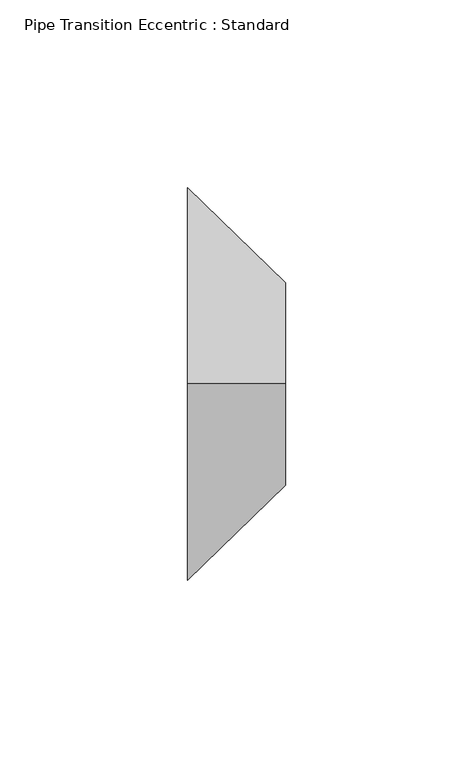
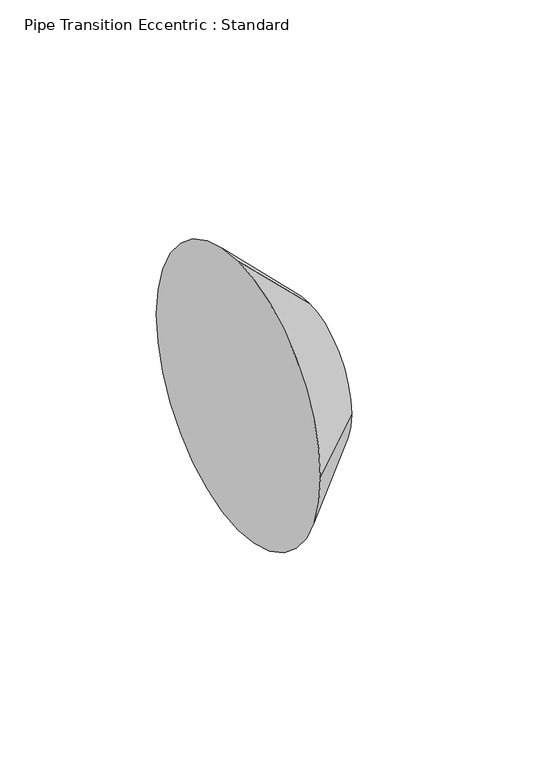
"""IFC4 building model written with IfcOpenShell, lengths in millimetres: pipe fitting geometry, Pipe Transition Eccentric : Standard."""

from ifc_helpers import new_model, si_unit, frame, origin, place, context, project, spatial, polyline, circle_curve, source, transform, mapped, element, save
from ifc_brep_helpers import plane_surface, revolved_surface, advanced_brep


def pipe_transition_eccentric_standard_ae9cfb6a(model_context):
    return source(origin(), model_context, "Body", "AdvancedBrep", [
        advanced_brep(
        [(26.19375, 0.0, 26.9875), (26.19375, -26.9875, 0.0), (26.19375, 0.0, -26.9875), (26.19375, 26.9875, 0.0), (0.0, 0.0, 52.3875), (0.0, 52.3875, 0.0), (0.0, 0.0, -52.3875), (0.0, -52.3875, 0.0)],
        [
            (0, 1, circle_curve(frame((26.19375, 0.0, 0.0), z_axis=(1.0, 0.0, 0.0), x_axis=(0.0, 0.0, 1.0)), 26.9875)),
            (1, 2, circle_curve(frame((26.19375, 0.0, 0.0), z_axis=(1.0, 0.0, 0.0), x_axis=(0.0, -1.0, 0.0)), 26.9875)),
            (2, 3, circle_curve(frame((26.19375, 0.0, 0.0), z_axis=(1.0, 0.0, 0.0), x_axis=(0.0, 0.0, -1.0)), 26.9875)),
            (3, 0, circle_curve(frame((26.19375, 0.0, 0.0), z_axis=(1.0, 0.0, 0.0), x_axis=(0.0, 1.0, 0.0)), 26.9875)),
            (4, 5, circle_curve(frame((0.0, 0.0, 0.0), z_axis=(-1.0, 0.0, 0.0), x_axis=(0.0, 1.0, 0.0)), 52.3875)),
            (5, 6, circle_curve(frame((0.0, 0.0, 0.0), z_axis=(-1.0, 0.0, 0.0), x_axis=(0.0, 0.0, -1.0)), 52.3875)),
            (6, 7, circle_curve(frame((0.0, 0.0, 0.0), z_axis=(-1.0, 0.0, 0.0), x_axis=(0.0, -1.0, 0.0)), 52.3875)),
            (7, 4, circle_curve(frame((0.0, 0.0, 0.0), z_axis=(-1.0, 0.0, 0.0), x_axis=(0.0, 0.0, 1.0)), 52.3875)),
            (7, 1),
            (0, 4),
            (6, 2),
            (5, 3),
        ],
        [
            plane_surface(frame((26.19375, 0.0, 0.0), z_axis=(1.0, 0.0, 0.0), x_axis=(0.0, -1.0, 0.0))),
            plane_surface(frame((0.0, 0.0, 0.0), z_axis=(-1.0, 0.0, 0.0), x_axis=(0.0, -1.0, 0.0))),
            revolved_surface(polyline([(26.19375, 0.0, 26.9875000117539), (0.0, 0.0, 52.3875)]), (54.0246094, 0.0, 0.0), (-1.0, 0.0, 0.0)),
            revolved_surface(polyline([(26.19375, -26.9875000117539, 0.0), (0.0, -52.3875, 0.0)]), (54.0246094, 0.0, 0.0), (-1.0, 0.0, 0.0)),
            revolved_surface(polyline([(26.19375, 0.0, -26.9875000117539), (0.0, 0.0, -52.3875)]), (54.0246094, 0.0, 0.0), (-1.0, 0.0, 0.0)),
            revolved_surface(polyline([(26.19375, 26.9875000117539, 0.0), (0.0, 52.3875, 0.0)]), (54.0246094, 0.0, 0.0), (-1.0, 0.0, 0.0)),
        ],
        [
            (0, [[1, 2, 3, 4]]),
            (1, [[5, 6, 7, 8]]),
            (2, [[-8, 9, -1, 10]]),
            (3, [[-7, 11, -2, -9]]),
            (4, [[-6, 12, -3, -11]]),
            (5, [[-5, -10, -4, -12]]),
        ],
    ),
        advanced_brep(
        [(26.19375, 0.0, 26.9875), (26.19375, -26.9875, 0.0), (26.19375, 0.0, -26.9875), (26.19375, 26.9875, 0.0), (0.0, 0.0, 52.3875), (0.0, 52.3875, 0.0), (0.0, 0.0, -52.3875), (0.0, -52.3875, 0.0)],
        [
            (0, 1, circle_curve(frame((26.19375, 0.0, 0.0), z_axis=(1.0, 0.0, 0.0), x_axis=(0.0, 0.0, 1.0)), 26.9875)),
            (1, 2, circle_curve(frame((26.19375, 0.0, 0.0), z_axis=(1.0, 0.0, 0.0), x_axis=(0.0, -1.0, 0.0)), 26.9875)),
            (2, 3, circle_curve(frame((26.19375, 0.0, 0.0), z_axis=(1.0, 0.0, 0.0), x_axis=(0.0, 0.0, -1.0)), 26.9875)),
            (3, 0, circle_curve(frame((26.19375, 0.0, 0.0), z_axis=(1.0, 0.0, 0.0), x_axis=(0.0, 1.0, 0.0)), 26.9875)),
            (4, 5, circle_curve(frame((0.0, 0.0, 0.0), z_axis=(-1.0, 0.0, 0.0), x_axis=(0.0, 1.0, 0.0)), 52.3875)),
            (5, 6, circle_curve(frame((0.0, 0.0, 0.0), z_axis=(-1.0, 0.0, 0.0), x_axis=(0.0, 0.0, -1.0)), 52.3875)),
            (6, 7, circle_curve(frame((0.0, 0.0, 0.0), z_axis=(-1.0, 0.0, 0.0), x_axis=(0.0, -1.0, 0.0)), 52.3875)),
            (7, 4, circle_curve(frame((0.0, 0.0, 0.0), z_axis=(-1.0, 0.0, 0.0), x_axis=(0.0, 0.0, 1.0)), 52.3875)),
            (7, 1),
            (0, 4),
            (6, 2),
            (5, 3),
        ],
        [
            plane_surface(frame((26.19375, 0.0, 0.0), z_axis=(1.0, 0.0, 0.0), x_axis=(0.0, -1.0, 0.0))),
            plane_surface(frame((0.0, 0.0, 0.0), z_axis=(-1.0, 0.0, 0.0), x_axis=(0.0, -1.0, 0.0))),
            revolved_surface(polyline([(26.19375, 0.0, 26.9875000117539), (0.0, 0.0, 52.3875)]), (54.0246094, 0.0, 0.0), (-1.0, 0.0, 0.0)),
            revolved_surface(polyline([(26.19375, -26.9875000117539, 0.0), (0.0, -52.3875, 0.0)]), (54.0246094, 0.0, 0.0), (-1.0, 0.0, 0.0)),
            revolved_surface(polyline([(26.19375, 0.0, -26.9875000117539), (0.0, 0.0, -52.3875)]), (54.0246094, 0.0, 0.0), (-1.0, 0.0, 0.0)),
            revolved_surface(polyline([(26.19375, 26.9875000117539, 0.0), (0.0, 52.3875, 0.0)]), (54.0246094, 0.0, 0.0), (-1.0, 0.0, 0.0)),
        ],
        [
            (0, [[1, 2, 3, 4]]),
            (1, [[5, 6, 7, 8]]),
            (2, [[-8, 9, -1, 10]]),
            (3, [[-7, 11, -2, -9]]),
            (4, [[-6, 12, -3, -11]]),
            (5, [[-5, -10, -4, -12]]),
        ],
    ),
    ])


if __name__ == "__main__":
    model = new_model("IFC4")
    model_context = context("Model", 3, world=origin())
    ifc_project = project(units=[si_unit("LENGTHUNIT", "METRE", prefix="MILLI")], contexts=[model_context])
    site = spatial("IfcSite", under=ifc_project)
    building = spatial("IfcBuilding", under=site)
    placement = place(None, origin())
    pipe_transition_eccentric_standard_shape = pipe_transition_eccentric_standard_ae9cfb6a(model_context)
    element("IfcPipeFitting", 1, ObjectType="Pipe Transition Eccentric : Standard", at=placement, inside=building, context=model_context, shape_type="MappedRepresentation", body=[
        mapped(pipe_transition_eccentric_standard_shape, transform((0.0, 0.0, 0.0), x_axis=(1.0, 0.0, 0.0), y_axis=(0.0, 1.0, 0.0), z_axis=(0.0, 0.0, 1.0))),
    ])
    save(model, "model.ifc")
